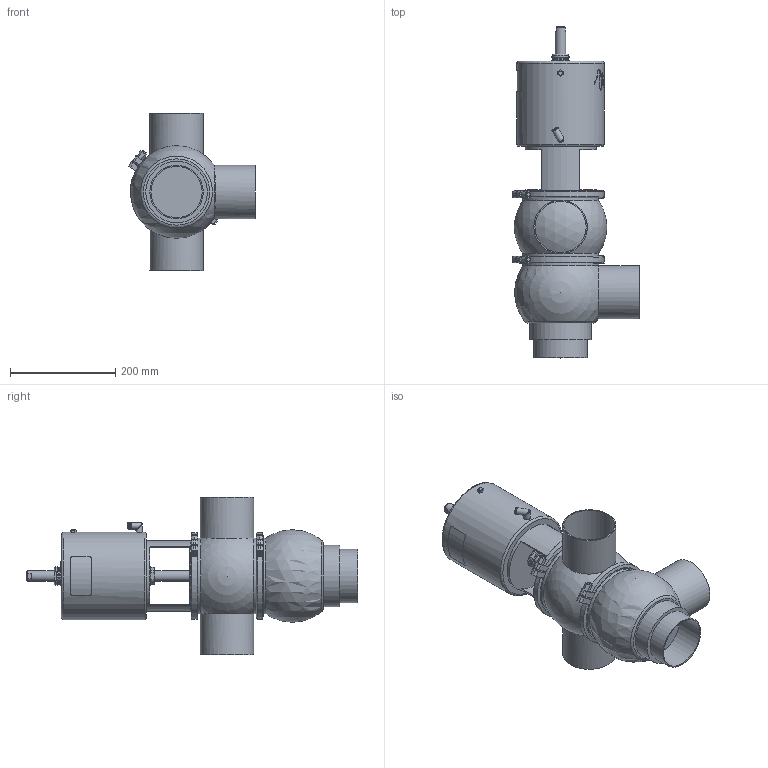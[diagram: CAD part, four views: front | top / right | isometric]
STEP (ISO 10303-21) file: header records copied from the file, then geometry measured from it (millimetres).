
FILE_DESCRIPTION (( 'STEP AP214' ), '1' );
FILE_NAME ('INNOVA K E W OD 4 T4 AS NC_10.240.16.0022.STEP', '2024-08-06T10:54:14', ( '' ), ( '' ), 'SwSTEP 2.0', 'SolidWorks 2023', '' );
FILE_SCHEMA (( 'AUTOMOTIVE_DESIGN' ));
Length unit declared in the file: millimetre
Products named in the file (6): 10.240.15.0010_DN 100; 10.240.15.0007_OD 4"; INNOVA K E W OD 4 T4 AS NC_10.240.16.0022; 10.240.15.0001_DN 100; 10.240.15.0014_T4 AS P0; 10.240.15.0002_OD 4"
Assembly tree (6 placements, depth 2):
  INNOVA K E W OD 4 T4 AS NC_10.240.16.0022
    10.240.15.0007_OD 4"
    10.240.15.0002_OD 4"
    10.240.15.0010_DN 100
    10.240.15.0014_T4 AS P0
    10.240.15.0001_DN 100  x2
Bounding box: 241.26 x 631.5 x 300 mm (x, y, z)
Volume: 9370477.8 mm3; surface area: 681787.1 mm2
Topology: 6 solids, 6 shells, 402 faces, 1068 edges, 698 vertices
Faces by surface type: plane 194, cylinder 91, bspline 80, cone 26, sphere 6, torus 5
Full cylindrical faces by diameter (mm): 6.15 x1, 8 x5, 8.5 x1, 10.5 x1, 12.5 x3, 16 x1, 20 x2, 31 x1, 34.5 x2, 36.5 x1, 97.4 x4, 101.6 x4, 117 x1, 135 x1, 144.5 x3, 156.5 x4, 166 x1
Entity records: 20848 total; most frequent: CARTESIAN_POINT 11451, ORIENTED_EDGE 1642, DIRECTION 1271, EDGE_CURVE 821, VERTEX_POINT 567, AXIS2_PLACEMENT_3D 491, EDGE_LOOP 428, FACE_OUTER_BOUND 384
